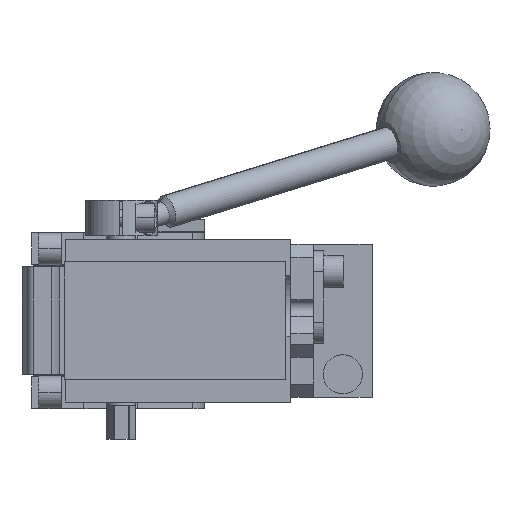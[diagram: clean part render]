
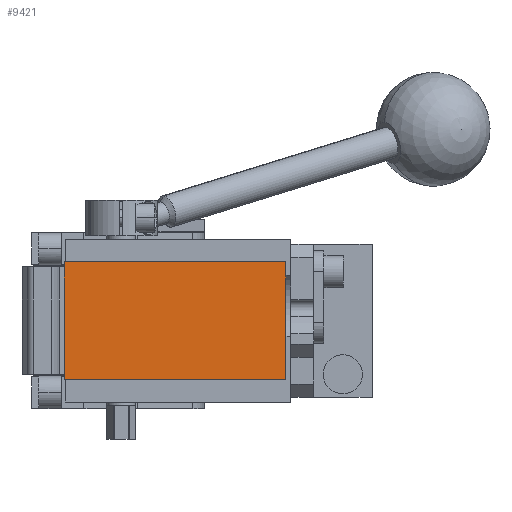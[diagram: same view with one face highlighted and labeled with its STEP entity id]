
A CAD part, front view. The second image highlights one B-rep face of the part: STEP entity #9421.
In plain terms, the highlighted planar face has unit normal (0, -1, 0).
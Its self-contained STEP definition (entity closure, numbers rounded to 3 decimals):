
#657 = DIRECTION ( 'NONE',  ( 0., 0., 1. ) ) ;
#1078 = CARTESIAN_POINT ( 'NONE',  ( 0., -233., 0. ) ) ;
#1809 = CARTESIAN_POINT ( 'NONE',  ( -6., -233., -18. ) ) ;
#2049 = VECTOR ( 'NONE', #15776, 1000. ) ;
#2142 = CARTESIAN_POINT ( 'NONE',  ( -6., -233., -18. ) ) ;
#2163 = CARTESIAN_POINT ( 'NONE',  ( -6., -233., 18. ) ) ;
#2295 = CARTESIAN_POINT ( 'NONE',  ( -6., -233., 18. ) ) ;
#3058 = ORIENTED_EDGE ( 'NONE', *, *, #13416, .T. ) ;
#3416 = EDGE_LOOP ( 'NONE', ( #12472, #15775, #4711, #3058 ) ) ;
#3618 = EDGE_CURVE ( 'NONE', #6455, #4879, #9221, .T. ) ;
#4395 = LINE ( 'NONE', #1809, #11803 ) ;
#4597 = DIRECTION ( 'NONE',  ( 0., 0., -1. ) ) ;
#4711 = ORIENTED_EDGE ( 'NONE', *, *, #12585, .T. ) ;
#4879 = VERTEX_POINT ( 'NONE', #2142 ) ;
#5385 = AXIS2_PLACEMENT_3D ( 'NONE', #1078, #5994, #9906 ) ;
#5994 = DIRECTION ( 'NONE',  ( 0., -1., 0. ) ) ;
#6199 = VERTEX_POINT ( 'NONE', #9859 ) ;
#6455 = VERTEX_POINT ( 'NONE', #2295 ) ;
#7229 = FACE_OUTER_BOUND ( 'NONE', #3416, .T. ) ;
#8338 = VECTOR ( 'NONE', #4597, 1000. ) ;
#8362 = EDGE_CURVE ( 'NONE', #4879, #12691, #4395, .T. ) ;
#9221 = LINE ( 'NONE', #13193, #8338 ) ;
#9421 = ADVANCED_FACE ( 'NONE', ( #7229 ), #12200, .T. ) ;
#9859 = CARTESIAN_POINT ( 'NONE',  ( 62., -233., 18. ) ) ;
#9906 = DIRECTION ( 'NONE',  ( 0., 0., -1. ) ) ;
#10397 = DIRECTION ( 'NONE',  ( 1., 0., 0. ) ) ;
#11526 = LINE ( 'NONE', #14118, #14912 ) ;
#11803 = VECTOR ( 'NONE', #10397, 1000. ) ;
#12200 = PLANE ( 'NONE',  #5385 ) ;
#12472 = ORIENTED_EDGE ( 'NONE', *, *, #3618, .T. ) ;
#12585 = EDGE_CURVE ( 'NONE', #12691, #6199, #11526, .T. ) ;
#12691 = VERTEX_POINT ( 'NONE', #13311 ) ;
#13193 = CARTESIAN_POINT ( 'NONE',  ( -6., -233., 18. ) ) ;
#13272 = LINE ( 'NONE', #2163, #2049 ) ;
#13311 = CARTESIAN_POINT ( 'NONE',  ( 62., -233., -18. ) ) ;
#13416 = EDGE_CURVE ( 'NONE', #6199, #6455, #13272, .T. ) ;
#14118 = CARTESIAN_POINT ( 'NONE',  ( 62., -233., 18. ) ) ;
#14912 = VECTOR ( 'NONE', #657, 1000. ) ;
#15775 = ORIENTED_EDGE ( 'NONE', *, *, #8362, .T. ) ;
#15776 = DIRECTION ( 'NONE',  ( -1., 0., 0. ) ) ;
